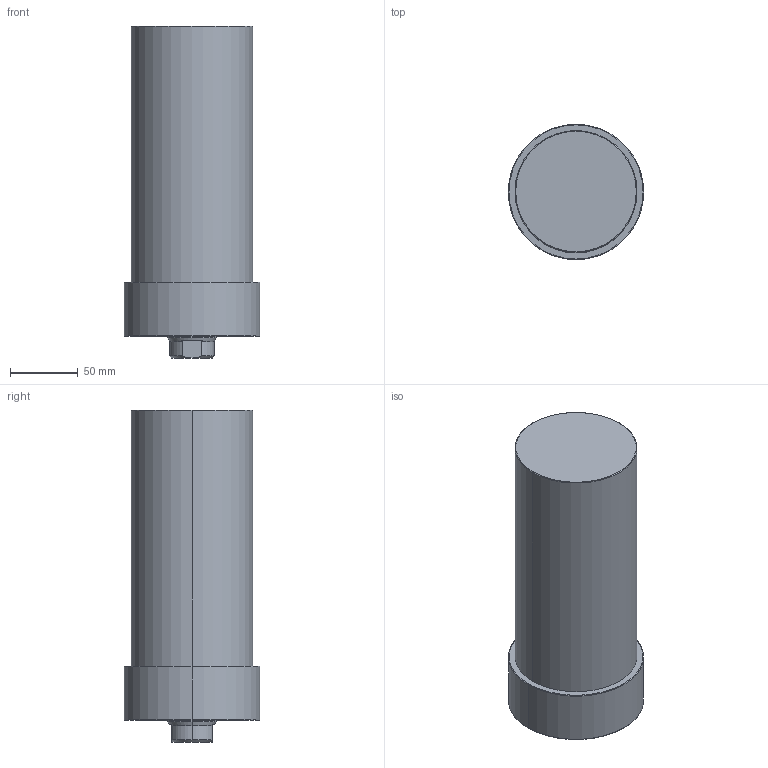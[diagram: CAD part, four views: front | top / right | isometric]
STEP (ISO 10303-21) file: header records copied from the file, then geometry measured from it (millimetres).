
FILE_DESCRIPTION (( 'STEP AP203' ), '1' );
FILE_NAME ('CLLU-090GA-135.STEP', '2020-01-13T05:36:48', ( '' ), ( '' ), 'SwSTEP 2.0', 'SolidWorks 2015', '' );
FILE_SCHEMA (( 'CONFIG_CONTROL_DESIGN' ));
Length unit declared in the file: millimetre
Products named in the file (1): CLLU-090GA-135
Bounding box: 100 x 100 x 245 mm (x, y, z)
Volume: 1510263.3 mm3; surface area: 88915.5 mm2
Topology: 1 solids, 1 shells, 64 faces, 143 edges, 80 vertices
Faces by surface type: cone 25, cylinder 23, plane 10, torus 6
Entity records: 1809 total; most frequent: DIRECTION 330, CARTESIAN_POINT 322, ORIENTED_EDGE 266, AXIS2_PLACEMENT_3D 140, EDGE_CURVE 133, VERTEX_POINT 80, CIRCLE 75, EDGE_LOOP 73
